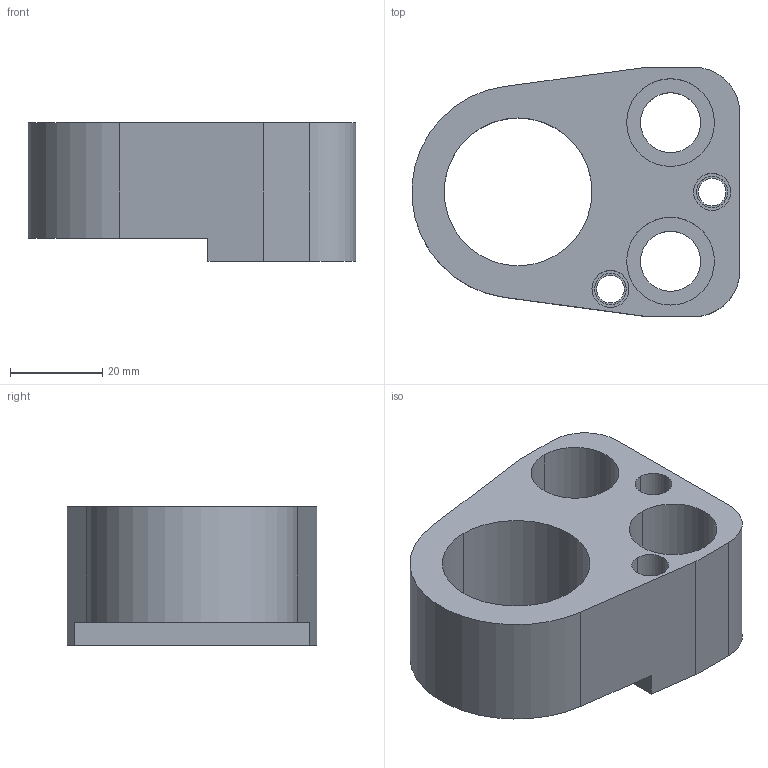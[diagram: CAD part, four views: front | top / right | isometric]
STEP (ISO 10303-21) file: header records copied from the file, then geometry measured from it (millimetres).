
FILE_DESCRIPTION(/* description */ (''),/* implementation_level */ '2;1');
FILE_NAME(/* name */ '3d_dp-fn32_03701_r00.stp',/* time_stamp */ '2011-01-10T14:15:56+09:00',/* author */ ('MISUMI'),/* organization */ (''),/* preprocessor_version */ 'ST-DEVELOPER v11',/* originating_system */ 'UGS - NX 5.0',/* authorisation */ '');
FILE_SCHEMA (('CONFIG_CONTROL_DESIGN'));
Length unit declared in the file: millimetre
Products named in the file (1): 3d_dp-fn32_03701_r00
Bounding box: 70.92 x 54 x 30 mm (x, y, z)
Volume: 55445.1 mm3; surface area: 17262.1 mm2
Topology: 1 solids, 1 shells, 42 faces, 104 edges, 69 vertices
Faces by surface type: cylinder 25, plane 15, cone 2
Entity records: 1380 total; most frequent: DIRECTION 242, CARTESIAN_POINT 219, ORIENTED_EDGE 208, EDGE_CURVE 104, AXIS2_PLACEMENT_3D 96, VERTEX_POINT 69, EDGE_LOOP 57, CIRCLE 53
